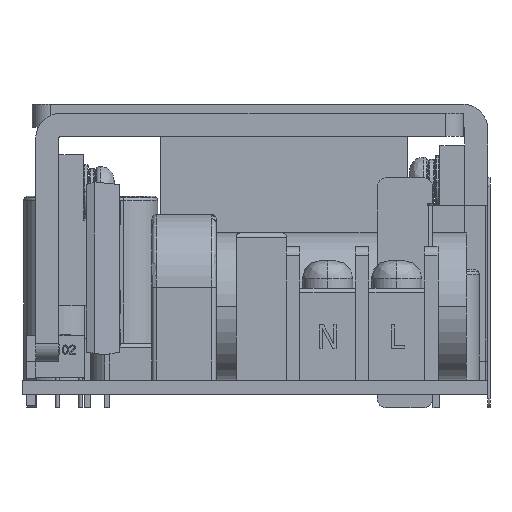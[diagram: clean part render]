
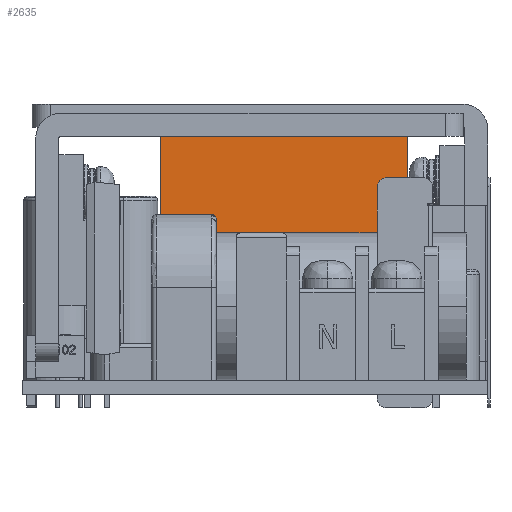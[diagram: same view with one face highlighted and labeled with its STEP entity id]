
A CAD part, left-side view. The second image highlights one B-rep face of the part: STEP entity #2635.
In plain terms, the highlighted planar face has unit normal (-1, 0, 0).
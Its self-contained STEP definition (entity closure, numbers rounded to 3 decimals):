
#80=CARTESIAN_POINT('',(34.288,8.701,28.1));
#85=DIRECTION('',(0.,1.,0.));
#86=VECTOR('',#85,26.831);
#87=CARTESIAN_POINT('',(34.288,8.701,28.1));
#88=LINE('',#87,#86);
#142=DIRECTION('',(0.,1.,0.));
#143=VECTOR('',#142,26.831);
#144=CARTESIAN_POINT('',(34.288,8.701,1.6));
#145=LINE('',#144,#143);
#149=DIRECTION('',(0.,0.,1.));
#150=VECTOR('',#149,26.5);
#151=CARTESIAN_POINT('',(34.288,35.533,1.6));
#152=LINE('',#151,#150);
#163=DIRECTION('',(0.,0.,1.));
#164=VECTOR('',#163,26.5);
#165=CARTESIAN_POINT('',(34.288,8.701,1.6));
#166=LINE('',#165,#164);
#2217=VERTEX_POINT('',#80);
#2218=CARTESIAN_POINT('',(34.288,35.533,28.1));
#2219=VERTEX_POINT('',#2218);
#2228=CARTESIAN_POINT('',(34.288,35.533,1.6));
#2229=VERTEX_POINT('',#2228);
#2232=CARTESIAN_POINT('',(34.288,8.701,1.6));
#2233=VERTEX_POINT('',#2232);
#2622=CARTESIAN_POINT('',(34.288,8.701,1.6));
#2623=DIRECTION('',(-1.,0.,0.));
#2624=DIRECTION('',(0.,0.,1.));
#2625=AXIS2_PLACEMENT_3D('',#2622,#2623,#2624);
#2626=PLANE('',#2625);
#2627=ORIENTED_EDGE('',*,*,#2552,.F.);
#2629=ORIENTED_EDGE('',*,*,#2628,.F.);
#2631=ORIENTED_EDGE('',*,*,#2630,.T.);
#2632=ORIENTED_EDGE('',*,*,#2606,.T.);
#2633=EDGE_LOOP('',(#2627,#2629,#2631,#2632));
#2634=FACE_OUTER_BOUND('',#2633,.F.);
#2552=EDGE_CURVE('',#2217,#2219,#88,.T.);
#2606=EDGE_CURVE('',#2229,#2219,#152,.T.);
#2628=EDGE_CURVE('',#2233,#2217,#166,.T.);
#2630=EDGE_CURVE('',#2233,#2229,#145,.T.);
#2635=ADVANCED_FACE('',(#2634),#2626,.T.);
